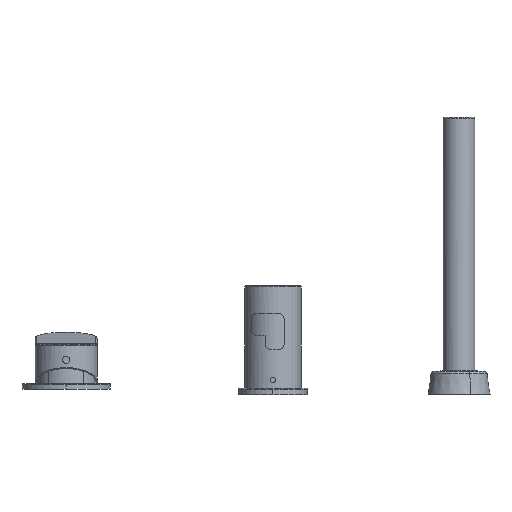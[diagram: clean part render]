
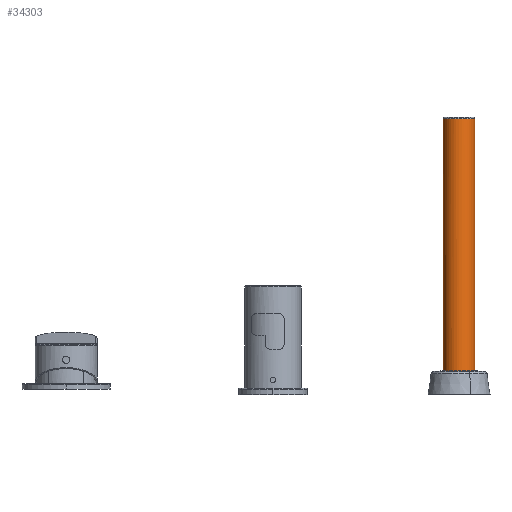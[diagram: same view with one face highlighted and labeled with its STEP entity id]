
A CAD part, front view. The second image highlights one B-rep face of the part: STEP entity #34303.
In plain terms, the highlighted cylindrical face has radius 11.5 mm (diameter 23 mm), a partial arc.
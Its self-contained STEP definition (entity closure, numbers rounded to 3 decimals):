
#99 = LINE ( 'NONE', #52783, #59574 ) ;
#1389 = CIRCLE ( 'NONE', #9179, 11.5 ) ;
#1422 = DIRECTION ( 'NONE',  ( 0., 0., 1. ) ) ;
#4284 = DIRECTION ( 'NONE',  ( 1., 0., 0. ) ) ;
#4968 = DIRECTION ( 'NONE',  ( 0., 0., -1. ) ) ;
#5060 = ORIENTED_EDGE ( 'NONE', *, *, #65000, .T. ) ;
#6477 = VERTEX_POINT ( 'NONE', #15602 ) ;
#6672 = CARTESIAN_POINT ( 'NONE',  ( 146.517, -82.813, 157.706 ) ) ;
#9179 = AXIS2_PLACEMENT_3D ( 'NONE', #57399, #50808, #31013 ) ;
#9827 = CARTESIAN_POINT ( 'NONE',  ( 135.017, -82.813, -25.238 ) ) ;
#11841 = CARTESIAN_POINT ( 'NONE',  ( 146.517, -82.813, 111.706 ) ) ;
#12056 = DIRECTION ( 'NONE',  ( 1., 0., 0. ) ) ;
#14203 = AXIS2_PLACEMENT_3D ( 'NONE', #16917, #39051, #12056 ) ;
#15179 = AXIS2_PLACEMENT_3D ( 'NONE', #9827, #4968, #31627 ) ;
#15602 = CARTESIAN_POINT ( 'NONE',  ( 123.517, -82.813, -25.238 ) ) ;
#16827 = ORIENTED_EDGE ( 'NONE', *, *, #55685, .F. ) ;
#16917 = CARTESIAN_POINT ( 'NONE',  ( 135.017, -82.813, 157.706 ) ) ;
#17037 = VERTEX_POINT ( 'NONE', #23665 ) ;
#18511 = FACE_OUTER_BOUND ( 'NONE', #34800, .T. ) ;
#19201 = DIRECTION ( 'NONE',  ( 0., 0., 1. ) ) ;
#23665 = CARTESIAN_POINT ( 'NONE',  ( 123.517, -82.813, 157.706 ) ) ;
#25638 = CARTESIAN_POINT ( 'NONE',  ( 146.517, -82.813, -25.238 ) ) ;
#26414 = DIRECTION ( 'NONE',  ( 0., 0., 1. ) ) ;
#27296 = CIRCLE ( 'NONE', #15179, 11.5 ) ;
#30320 = CARTESIAN_POINT ( 'NONE',  ( 124.394, -87.218, -25.238 ) ) ;
#30851 = VERTEX_POINT ( 'NONE', #6672 ) ;
#31013 = DIRECTION ( 'NONE',  ( -1., 0., 0. ) ) ;
#31357 = VERTEX_POINT ( 'NONE', #30320 ) ;
#31627 = DIRECTION ( 'NONE',  ( -1., 0., 0. ) ) ;
#31861 = CIRCLE ( 'NONE', #14203, 11.5 ) ;
#34303 = ADVANCED_FACE ( 'NONE', ( #18511 ), #45486, .T. ) ;
#34486 = VECTOR ( 'NONE', #1422, 1000. ) ;
#34800 = EDGE_LOOP ( 'NONE', ( #40901, #37183, #16827, #5060, #43278 ) ) ;
#37183 = ORIENTED_EDGE ( 'NONE', *, *, #61626, .F. ) ;
#39051 = DIRECTION ( 'NONE',  ( 0., 0., -1. ) ) ;
#40901 = ORIENTED_EDGE ( 'NONE', *, *, #62450, .F. ) ;
#43278 = ORIENTED_EDGE ( 'NONE', *, *, #50310, .T. ) ;
#45486 = CYLINDRICAL_SURFACE ( 'NONE', #48088, 11.5 ) ;
#48088 = AXIS2_PLACEMENT_3D ( 'NONE', #66448, #19201, #4284 ) ;
#48175 = LINE ( 'NONE', #11841, #34486 ) ;
#50310 = EDGE_CURVE ( 'NONE', #30851, #17037, #31861, .T. ) ;
#50808 = DIRECTION ( 'NONE',  ( 0., 0., -1. ) ) ;
#52783 = CARTESIAN_POINT ( 'NONE',  ( 123.517, -82.813, 111.706 ) ) ;
#52877 = VERTEX_POINT ( 'NONE', #25638 ) ;
#55685 = EDGE_CURVE ( 'NONE', #52877, #31357, #1389, .T. ) ;
#57399 = CARTESIAN_POINT ( 'NONE',  ( 135.017, -82.813, -25.238 ) ) ;
#59574 = VECTOR ( 'NONE', #26414, 1000. ) ;
#61626 = EDGE_CURVE ( 'NONE', #31357, #6477, #27296, .T. ) ;
#62450 = EDGE_CURVE ( 'NONE', #6477, #17037, #99, .T. ) ;
#65000 = EDGE_CURVE ( 'NONE', #52877, #30851, #48175, .T. ) ;
#66448 = CARTESIAN_POINT ( 'NONE',  ( 135.017, -82.813, 111.706 ) ) ;
